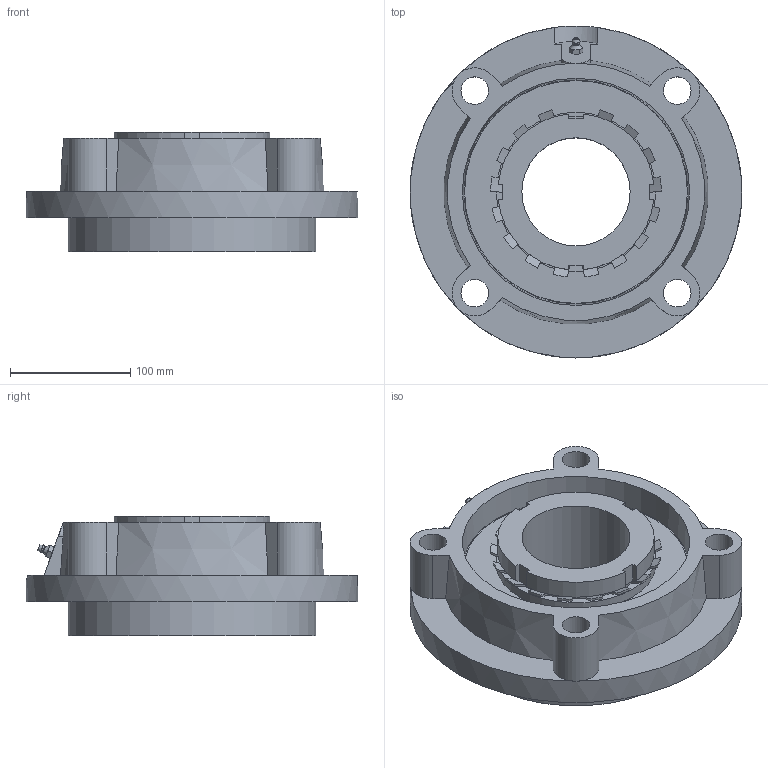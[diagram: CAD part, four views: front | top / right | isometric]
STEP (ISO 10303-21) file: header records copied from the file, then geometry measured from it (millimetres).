
FILE_DESCRIPTION((''),'2;1');
FILE_NAME('\\Ts-tgl068\j-cad-d-base\00.3DCADデータ作成フォルダ\02.フランジ形\UKFCX\UKFCX20+H.stp','2014-12-10T08:25:47',('btec_1106_2'),(''),'Autodesk Inventor 2012','Autodesk Inventor 2012','');
FILE_SCHEMA(('AUTOMOTIVE_DESIGN { 1 0 10303 214 1 1 1 1 }'));
Length unit declared in the file: millimetre
Products named in the file (4): UKFCX00+H; FCX20; UKX20+H; G1
Assembly tree (3 placements, depth 2):
  UKFCX00+H
    FCX20
    UKX20+H
    G1
Bounding box: 276 x 276 x 99 mm (x, y, z)
Volume: 2523641.5 mm3; surface area: 341897.1 mm2
Topology: 3 solids, 3 shells, 206 faces, 525 edges, 333 vertices
Faces by surface type: plane 90, cylinder 56, cone 54, sphere 4, torus 2
Full cylindrical faces by diameter (mm): 8.566 x1, 9.728 x1, 23 x4, 90 x1, 100 x1, 132.5 x2, 206 x1, 276 x1
Entity records: 6169 total; most frequent: CARTESIAN_POINT 1339, ORIENTED_EDGE 992, DIRECTION 988, EDGE_CURVE 496, AXIS2_PLACEMENT_3D 399, VERTEX_POINT 326, EDGE_LOOP 252, FACE_OUTER_BOUND 206
